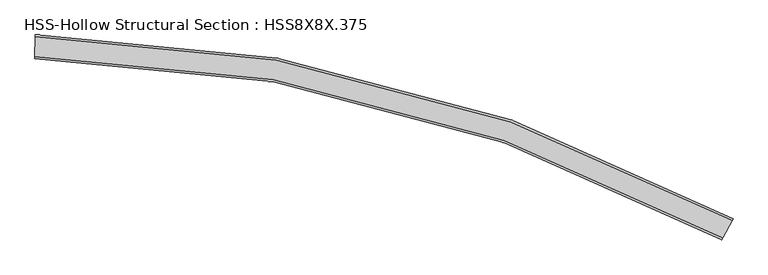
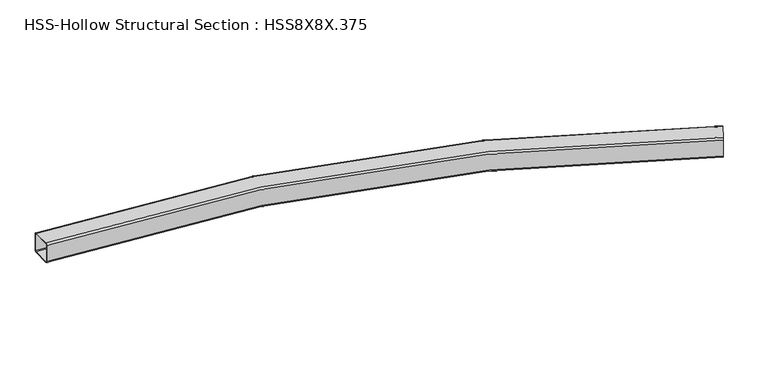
"""IFC4 building model written with IfcOpenShell, lengths in millimetres: beam geometry, HSS-Hollow Structural Section : HSS8X8X.375."""

from ifc_helpers import new_model, si_unit, point, frame, origin, place, context, project, spatial, polyline, circle_curve, ellipse_curve, trimmed, source, transform, mapped, element, save
from ifc_brep_helpers import plane_surface, cylinder_surface, revolved_surface, advanced_brep


def hss_hollow_structural_section_hss8x8x_375_3f7a212a(model_context):
    return source(origin(), model_context, "Body", "AdvancedBrep", [
        advanced_brep(
        [(6121.7238156, -1466.3923014, 83.9390625), (6113.2336242, -1481.8785974, 101.6), (6032.5291082, -1629.0854109, 101.6), (6024.0389168, -1644.5717069, 83.9390625), (6024.0389168, -1644.5717069, -83.9390625), (6032.5291082, -1629.0854109, -101.6), (6113.2336242, -1481.8785974, -101.6), (6121.7238156, -1466.3923014, -83.9390625), (6032.5291082, -1629.0854109, 92.7695312), (6113.2336242, -1481.8785974, 92.7695312), (6117.4787199, -1474.1354494, 83.9390625), (6117.4787199, -1474.1354494, -83.9390625), (6113.2336242, -1481.8785974, -92.7695313), (6032.5291082, -1629.0854109, -92.7695313), (6028.2840125, -1636.8285589, -83.9390625), (6028.2840125, -1636.8285589, 83.9390625), (187.7413355, 100.2159767, 83.9390625), (187.7413355, 100.2159767, -83.9390625), (187.4809579, 82.5569587, -101.6), (185.0059077, -85.3029203, -101.6), (184.7455301, -102.9619383, -83.9390625), (184.7455301, -102.9619383, 83.9390625), (185.0059077, -85.3029203, 101.6), (187.4809579, 82.5569587, 101.6), (185.0059077, -85.3029203, 92.7695312), (184.8757189, -94.1324293, 83.9390625), (184.8757189, -94.1324293, -83.9390625), (185.0059077, -85.3029203, -92.7695313), (187.4809579, 82.5569587, -92.7695313), (187.6111467, 91.3864677, -83.9390625), (187.6111467, 91.3864677, 83.9390625), (187.4809579, 82.5569587, 92.7695312)],
        [
            (0, 1, circle_curve(frame((6113.2336242, -1481.8785974, 83.9390625), z_axis=(0.8768671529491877, -0.4807327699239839, 0.0), x_axis=(-0.4807327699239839, -0.8768671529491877, 0.0)), 17.6609375)),
            (1, 2),
            (2, 3, circle_curve(frame((6032.5291082, -1629.0854109, 83.9390625), z_axis=(0.8768671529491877, -0.4807327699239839, 0.0), x_axis=(-0.4807327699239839, -0.8768671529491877, 0.0)), 17.6609375)),
            (3, 4),
            (4, 5, circle_curve(frame((6032.5291082, -1629.0854109, -83.9390625), z_axis=(0.8768671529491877, -0.4807327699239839, 0.0), x_axis=(-0.4807327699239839, -0.8768671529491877, 0.0)), 17.6609375)),
            (5, 6),
            (6, 7, circle_curve(frame((6113.2336242, -1481.8785974, -83.9390625), z_axis=(0.8768671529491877, -0.4807327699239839, 0.0), x_axis=(-0.4807327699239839, -0.8768671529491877, 0.0)), 17.6609375)),
            (7, 0),
            (8, 9),
            (9, 10, circle_curve(frame((6113.2336242, -1481.8785974, 83.9390625), z_axis=(-0.8768671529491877, 0.4807327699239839, 0.0), x_axis=(-0.4807327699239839, -0.8768671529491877, 0.0)), 8.8304688)),
            (10, 11),
            (11, 12, circle_curve(frame((6113.2336242, -1481.8785974, -83.9390625), z_axis=(-0.8768671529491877, 0.4807327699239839, 0.0), x_axis=(-0.4807327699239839, -0.8768671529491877, 0.0)), 8.8304688)),
            (12, 13),
            (13, 14, circle_curve(frame((6032.5291082, -1629.0854109, -83.9390625), z_axis=(-0.8768671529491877, 0.4807327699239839, 0.0), x_axis=(-0.4807327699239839, -0.8768671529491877, 0.0)), 8.8304688)),
            (14, 15),
            (15, 8, circle_curve(frame((6032.5291082, -1629.0854109, 83.9390625), z_axis=(-0.8768671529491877, 0.4807327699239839, 0.0), x_axis=(-0.4807327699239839, -0.8768671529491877, 0.0)), 8.8304688)),
            (16, 17),
            (17, 18, circle_curve(frame((187.4809579, 82.5569587, -83.9390625), z_axis=(-0.999891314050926, 0.014743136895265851, 0.0), x_axis=(-0.014743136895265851, -0.999891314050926, 0.0)), 17.6609375)),
            (18, 19),
            (19, 20, circle_curve(frame((185.0059077, -85.3029203, -83.9390625), z_axis=(-0.999891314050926, 0.014743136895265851, 0.0), x_axis=(-0.014743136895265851, -0.999891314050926, 0.0)), 17.6609375)),
            (20, 21),
            (21, 22, circle_curve(frame((185.0059077, -85.3029203, 83.9390625), z_axis=(-0.999891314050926, 0.014743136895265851, 0.0), x_axis=(-0.014743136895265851, -0.999891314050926, 0.0)), 17.6609375)),
            (22, 23),
            (23, 16, circle_curve(frame((187.4809579, 82.5569587, 83.9390625), z_axis=(-0.999891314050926, 0.014743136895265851, 0.0), x_axis=(-0.014743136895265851, -0.999891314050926, 0.0)), 17.6609375)),
            (24, 25, circle_curve(frame((185.0059077, -85.3029203, 83.9390625), z_axis=(0.999891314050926, -0.014743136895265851, 0.0), x_axis=(-0.014743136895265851, -0.999891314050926, 0.0)), 8.8304688)),
            (25, 26),
            (26, 27, circle_curve(frame((185.0059077, -85.3029203, -83.9390625), z_axis=(0.999891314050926, -0.014743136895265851, 0.0), x_axis=(-0.014743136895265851, -0.999891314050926, 0.0)), 8.8304688)),
            (27, 28),
            (28, 29, circle_curve(frame((187.4809579, 82.5569587, -83.9390625), z_axis=(0.999891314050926, -0.014743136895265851, 0.0), x_axis=(-0.014743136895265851, -0.999891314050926, 0.0)), 8.8304688)),
            (29, 30),
            (30, 31, circle_curve(frame((187.4809579, 82.5569587, 83.9390625), z_axis=(0.999891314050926, -0.014743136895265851, 0.0), x_axis=(-0.014743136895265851, -0.999891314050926, 0.0)), 8.8304688)),
            (31, 24),
            (0, 16, circle_curve(frame((0.0, -12632.5512762, 83.9390625), z_axis=(0.0, 0.0, 1.0), x_axis=(-0.5014171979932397, -0.8652056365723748, 0.0)), 12734.1512762)),
            (23, 1, circle_curve(frame((0.0, -12632.5512762, 101.6), z_axis=(0.0, 0.0, -1.0), x_axis=(-0.5014171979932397, -0.8652056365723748, 0.0)), 12716.4903387)),
            (22, 2, circle_curve(frame((0.0, -12632.5512762, 101.6), z_axis=(0.0, 0.0, -1.0), x_axis=(-0.5014171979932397, -0.8652056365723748, 0.0)), 12548.6122137)),
            (21, 3, circle_curve(frame((0.0, -12632.5512762, 83.9390625), z_axis=(0.0, 0.0, -1.0), x_axis=(-0.5014171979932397, -0.8652056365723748, 0.0)), 12530.9512762)),
            (20, 4, circle_curve(frame((0.0, -12632.5512762, -83.9390625), z_axis=(0.0, 0.0, -1.0), x_axis=(-0.5014171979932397, -0.8652056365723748, 0.0)), 12530.9512762)),
            (19, 5, circle_curve(frame((0.0, -12632.5512762, -101.6), z_axis=(0.0, 0.0, -1.0), x_axis=(-0.5014171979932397, -0.8652056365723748, 0.0)), 12548.6122137)),
            (18, 6, circle_curve(frame((0.0, -12632.5512762, -101.6), z_axis=(0.0, 0.0, -1.0), x_axis=(-0.5014171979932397, -0.8652056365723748, 0.0)), 12716.4903387)),
            (17, 7, circle_curve(frame((0.0, -12632.5512762, -83.9390625), z_axis=(0.0, 0.0, -1.0), x_axis=(-0.5014171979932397, -0.8652056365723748, 0.0)), 12734.1512762)),
            (8, 24, circle_curve(frame((0.0, -12632.5512762, 92.7695312), z_axis=(0.0, 0.0, 1.0), x_axis=(-0.5014171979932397, -0.8652056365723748, 0.0)), 12548.6122137)),
            (31, 9, circle_curve(frame((0.0, -12632.5512762, 92.7695312), z_axis=(0.0, 0.0, -1.0), x_axis=(-0.5014171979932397, -0.8652056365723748, 0.0)), 12716.4903387)),
            (30, 10, circle_curve(frame((0.0, -12632.5512762, 83.9390625), z_axis=(0.0, 0.0, -1.0), x_axis=(-0.5014171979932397, -0.8652056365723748, 0.0)), 12725.3208075)),
            (29, 11, circle_curve(frame((0.0, -12632.5512762, -83.9390625), z_axis=(0.0, 0.0, -1.0), x_axis=(-0.5014171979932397, -0.8652056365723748, 0.0)), 12725.3208075)),
            (28, 12, circle_curve(frame((0.0, -12632.5512762, -92.7695313), z_axis=(0.0, 0.0, -1.0), x_axis=(-0.5014171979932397, -0.8652056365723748, 0.0)), 12716.4903387)),
            (27, 13, circle_curve(frame((0.0, -12632.5512762, -92.7695313), z_axis=(0.0, 0.0, -1.0), x_axis=(-0.5014171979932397, -0.8652056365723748, 0.0)), 12548.6122137)),
            (26, 14, circle_curve(frame((0.0, -12632.5512762, -83.9390625), z_axis=(0.0, 0.0, -1.0), x_axis=(-0.5014171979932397, -0.8652056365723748, 0.0)), 12539.781745)),
            (25, 15, circle_curve(frame((0.0, -12632.5512762, 83.9390625), z_axis=(0.0, 0.0, -1.0), x_axis=(-0.5014171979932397, -0.8652056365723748, 0.0)), 12539.781745)),
        ],
        [
            plane_surface(frame((6072.8813662, -1555.4820042, 0.0), z_axis=(0.8768671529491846, -0.4807327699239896, 0.0), x_axis=(0.0, 0.0, 1.0))),
            plane_surface(frame((186.2434328, -1.3729808, 0.0), z_axis=(-0.9998913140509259, 0.014743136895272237, 0.0), x_axis=(0.0, 0.0, 1.0))),
            revolved_surface(trimmed(ellipse_curve(frame((-6376.2669539, -23634.9303947, 83.9390625), z_axis=(0.865205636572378, -0.5014171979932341, 0.0), x_axis=(0.5014171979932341, 0.865205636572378, 0.0)), 17.6609375, 17.6609375), [point((-6376.2669539, -23634.9303947, 101.6))], [point((-6385.1224517, -23650.2107374, 83.9390625))], True, "CARTESIAN"), (0.0, -12632.5512762, 0.0), (0.0, 0.0, -1.0)),
            plane_surface(frame((0.0, -12632.5512762, 101.6), z_axis=(0.0, 0.0, 1.0), x_axis=(-0.5014171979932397, -0.8652056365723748, 0.0))),
            revolved_surface(trimmed(ellipse_curve(frame((-6292.0899749, -23489.6812947, 83.9390625), z_axis=(0.865205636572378, -0.5014171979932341, 0.0), x_axis=(0.5014171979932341, 0.865205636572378, 0.0)), 17.6609375, 17.6609375), [point((-6283.2344771, -23474.400952, 83.9390625))], [point((-6292.0899749, -23489.6812947, 101.6))], True, "CARTESIAN"), (0.0, -12632.5512762, 0.0), (0.0, 0.0, -1.0)),
            revolved_surface(polyline([(-6283.234477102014, -23474.400951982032, -83.9390625), (-6283.234477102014, -23474.400951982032, 83.9390625)]), (0.0, -12632.5512762, 0.0), (0.0, 0.0, -1.0)),
            revolved_surface(trimmed(ellipse_curve(frame((-6292.0899749, -23489.6812947, -83.9390625), z_axis=(0.865205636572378, -0.5014171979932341, 0.0), x_axis=(0.5014171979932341, 0.865205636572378, 0.0)), 17.6609375, 17.6609375), [point((-6292.0899749, -23489.6812947, -101.6))], [point((-6283.2344771, -23474.400952, -83.9390625))], True, "CARTESIAN"), (0.0, -12632.5512762, 0.0), (0.0, 0.0, -1.0)),
            plane_surface(frame((0.0, -12632.5512762, -101.6), z_axis=(0.0, 0.0, -1.0), x_axis=(-0.5014171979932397, -0.8652056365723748, 0.0))),
            revolved_surface(trimmed(ellipse_curve(frame((-6376.2669539, -23634.9303947, -83.9390625), z_axis=(0.865205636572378, -0.5014171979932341, 0.0), x_axis=(0.5014171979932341, 0.865205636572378, 0.0)), 17.6609375, 17.6609375), [point((-6385.1224517, -23650.2107374, -83.9390625))], [point((-6376.2669539, -23634.9303947, -101.6))], True, "CARTESIAN"), (0.0, -12632.5512762, 0.0), (0.0, 0.0, -1.0)),
            cylinder_surface(frame((0.0, -12632.5512762, 0.0), z_axis=(0.0, 0.0, -1.0), x_axis=(-0.5014171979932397, -0.8652056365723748, 0.0)), 12734.1512762),
            plane_surface(frame((0.0, -12632.5512762, 92.7695312), z_axis=(0.0, 0.0, -1.0), x_axis=(-0.5014171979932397, -0.8652056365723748, 0.0))),
            revolved_surface(trimmed(ellipse_curve(frame((-6376.2669539, -23634.9303947, 83.9390625), z_axis=(-0.865205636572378, 0.5014171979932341, 0.0), x_axis=(0.5014171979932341, 0.865205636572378, 0.0)), 8.8304688, 8.8304688), [point((-6380.6947028, -23642.570566, 83.9390625))], [point((-6376.2669539, -23634.9303947, 92.7695312))], True, "CARTESIAN"), (0.0, -12632.5512762, 0.0), (0.0, 0.0, -1.0)),
            revolved_surface(polyline([(-6380.6947028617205, -23642.570566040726, -83.9390625), (-6380.6947028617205, -23642.570566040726, 83.9390625)]), (0.0, -12632.5512762, 0.0), (0.0, 0.0, -1.0)),
            revolved_surface(trimmed(ellipse_curve(frame((-6376.2669539, -23634.9303947, -83.9390625), z_axis=(-0.865205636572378, 0.5014171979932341, 0.0), x_axis=(0.5014171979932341, 0.865205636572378, 0.0)), 8.8304688, 8.8304688), [point((-6376.2669539, -23634.9303947, -92.7695313))], [point((-6380.6947028, -23642.570566, -83.9390625))], True, "CARTESIAN"), (0.0, -12632.5512762, 0.0), (0.0, 0.0, -1.0)),
            plane_surface(frame((0.0, -12632.5512762, -92.7695313), z_axis=(0.0, 0.0, 1.0), x_axis=(-0.5014171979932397, -0.8652056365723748, 0.0))),
            revolved_surface(trimmed(ellipse_curve(frame((-6292.0899749, -23489.6812947, -83.9390625), z_axis=(-0.865205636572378, 0.5014171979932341, 0.0), x_axis=(0.5014171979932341, 0.865205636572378, 0.0)), 8.8304688, 8.8304688), [point((-6287.662226, -23482.0411234, -83.9390625))], [point((-6292.0899749, -23489.6812947, -92.7695313))], True, "CARTESIAN"), (0.0, -12632.5512762, 0.0), (0.0, 0.0, -1.0)),
            cylinder_surface(frame((0.0, -12632.5512762, 0.0), z_axis=(0.0, 0.0, -1.0), x_axis=(-0.5014171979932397, -0.8652056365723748, 0.0)), 12539.781745),
            revolved_surface(trimmed(ellipse_curve(frame((-6292.0899749, -23489.6812947, 83.9390625), z_axis=(-0.865205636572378, 0.5014171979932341, 0.0), x_axis=(0.5014171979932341, 0.865205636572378, 0.0)), 8.8304688, 8.8304688), [point((-6292.0899749, -23489.6812947, 92.7695312))], [point((-6287.662226, -23482.0411234, 83.9390625))], True, "CARTESIAN"), (0.0, -12632.5512762, 0.0), (0.0, 0.0, -1.0)),
        ],
        [
            (0, [[1, 2, 3, 4, 5, 6, 7, 8], [9, 10, 11, 12, 13, 14, 15, 16]]),
            (1, [[17, 18, 19, 20, 21, 22, 23, 24], [25, 26, 27, 28, 29, 30, 31, 32]]),
            (2, [[-1, 33, -24, 34]]),
            (3, [[-2, -34, -23, 35]]),
            (4, [[-3, -35, -22, 36]]),
            (5, [[-4, -36, -21, 37]]),
            (6, [[-5, -37, -20, 38]]),
            (7, [[-6, -38, -19, 39]]),
            (8, [[-7, -39, -18, 40]]),
            (9, [[-8, -40, -17, -33]]),
            (10, [[-9, 41, -32, 42]]),
            (11, [[-10, -42, -31, 43]]),
            (12, [[-11, -43, -30, 44]]),
            (13, [[-12, -44, -29, 45]]),
            (14, [[-13, -45, -28, 46]]),
            (15, [[-14, -46, -27, 47]]),
            (16, [[-15, -47, -26, 48]]),
            (17, [[-16, -48, -25, -41]]),
        ],
    ),
    ])


if __name__ == "__main__":
    model = new_model("IFC4")
    model_context = context("Model", 3, world=origin())
    ifc_project = project(units=[si_unit("LENGTHUNIT", "METRE", prefix="MILLI")], contexts=[model_context])
    site = spatial("IfcSite", under=ifc_project)
    building = spatial("IfcBuilding", under=site)
    placement = place(None, origin())
    hss_hollow_structural_section_hss8x8x_375_shape = hss_hollow_structural_section_hss8x8x_375_3f7a212a(model_context)
    element("IfcBeam", 1, ObjectType="HSS-Hollow Structural Section : HSS8X8X.375", at=placement, inside=building, context=model_context, shape_type="MappedRepresentation", body=[
        mapped(hss_hollow_structural_section_hss8x8x_375_shape, transform((0.0, 0.0, 0.0), x_axis=(1.0, 0.0, 0.0), y_axis=(0.0, 1.0, 0.0), z_axis=(0.0, 0.0, 1.0))),
    ])
    save(model, "model.ifc")
